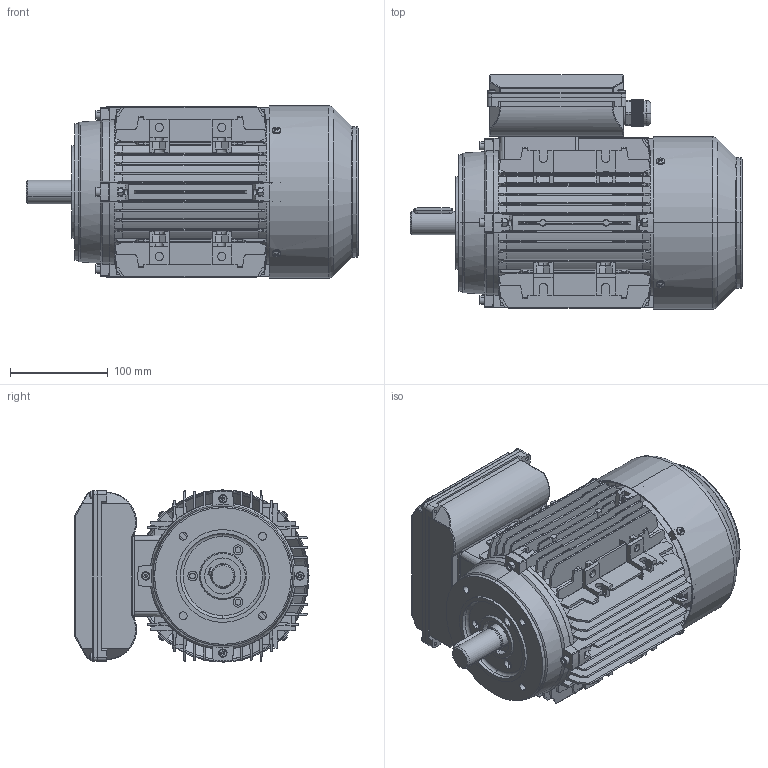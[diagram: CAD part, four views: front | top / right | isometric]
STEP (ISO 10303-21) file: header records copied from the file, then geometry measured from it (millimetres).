
FILE_DESCRIPTION (( 'STEP AP203' ), '1' );
FILE_NAME ('ML2 90L B14(臏諉盄碟).STEP', '2024-01-22T08:47:31', ( '' ), ( '' ), 'SwSTEP 2.0', 'SolidWorks 2016', '' );
FILE_SCHEMA (( 'CONFIG_CONTROL_DESIGN' ));
Length unit declared in the file: millimetre
Products named in the file (16): ML2 90L B14(臏諉盄碟); T90L儂褲; plain parallel keys_GB_CONNECTING_PIECE_KEYS_CSK 8X40; hexagon socket head cap screws gb_GB_FASTENER_SCREWS_HSHCS M5X25-N; TA90B14楊擘1; ML80-ML90諉盄碟裔(樓酗)(臏II); TA90綴裔1; T90L蛌粣; hexagon nuts grade c gb_GB_FASTENER_NUT_SNC1 M5-N; ML80-90铝接线盒组合II（加长）; TA90瑞欶; 90瑞珔; 80-100堤盄蹟杶; ML80-ML90諉盄碟釱(樓酗)(臏II); cross recessed thread forming screws gb_GB_CROSS_SCREWS_TYPE138 M4X12-N; cross recessed thread forming screws gb_GB_CROSS_SCREWS_TYPE138 M4X8X6.6-N
Assembly tree (35 placements, depth 3):
  ML2 90L B14(臏諉盄碟)
    T90L儂褲
    TA90瑞欶
    TA90綴裔1
    90瑞珔
    T90L蛌粣
    plain parallel keys_GB_CONNECTING_PIECE_KEYS_CSK 8X40
    hexagon nuts grade c gb_GB_FASTENER_NUT_SNC1 M5-N  x8
    hexagon socket head cap screws gb_GB_FASTENER_SCREWS_HSHCS M5X25-N  x8
    cross recessed thread forming screws gb_GB_CROSS_SCREWS_TYPE138 M4X12-N  x4
    TA90B14楊擘1
    ML80-90铝接线盒组合II（加长）
      ML80-ML90諉盄碟釱(樓酗)(臏II)
      ML80-ML90諉盄碟裔(樓酗)(臏II)
      cross recessed thread forming screws gb_GB_CROSS_SCREWS_TYPE138 M4X8X6.6-N  x4
      80-100堤盄蹟杶
Bounding box: 340 x 239.75 x 176.5 mm (x, y, z)
Volume: 1387956.2 mm3; surface area: 912159.1 mm2
Topology: 34 solids, 34 shells, 3812 faces, 10262 edges, 6570 vertices
Faces by surface type: plane 2391, cylinder 942, cone 237, torus 156, sphere 72, bspline 14
Entity records: 114228 total; most frequent: CARTESIAN_POINT 27606, ORIENTED_EDGE 18452, DIRECTION 16553, EDGE_CURVE 9226, VECTOR 5947, LINE 5947, VERTEX_POINT 5935, AXIS2_PLACEMENT_3D 5303
